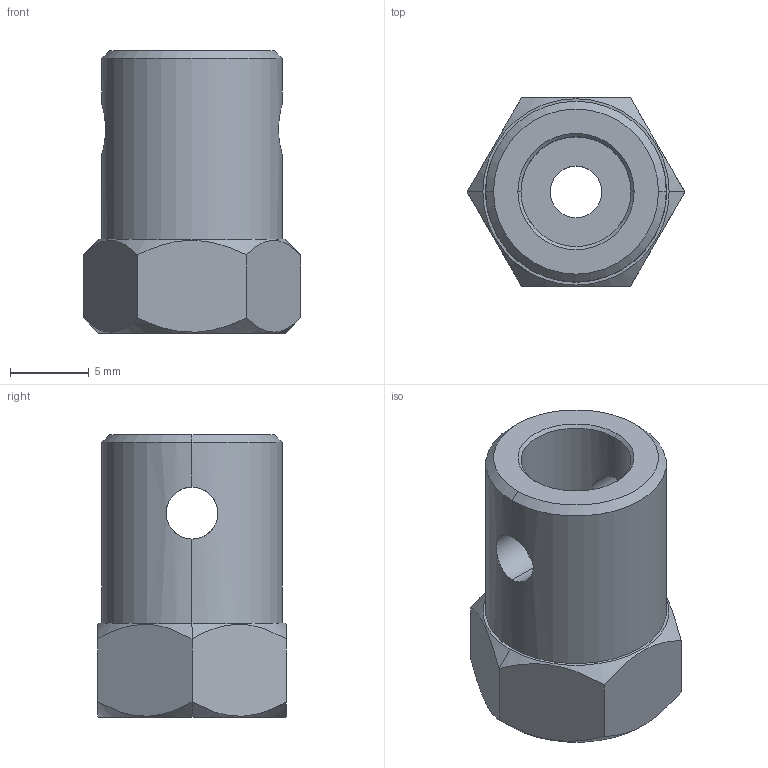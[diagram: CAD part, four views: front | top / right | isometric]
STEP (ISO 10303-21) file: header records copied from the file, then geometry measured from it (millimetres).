
FILE_DESCRIPTION (( 'STEP AP214' ), '1' );
FILE_NAME ('18060-3D.STEP', '2018-12-28T03:10:38', ( 'Windows 蚚誧' ), ( '' ), 'SwSTEP 2.0', 'SolidWorks 2018', '' );
FILE_SCHEMA (( 'AUTOMOTIVE_DESIGN' ));
Length unit declared in the file: millimetre
Products named in the file (1): 18060-3D
Bounding box: 13.86 x 12 x 18 mm (x, y, z)
Volume: 1429.2 mm3; surface area: 1220.8 mm2
Topology: 1 solids, 1 shells, 28 faces, 68 edges, 40 vertices
Faces by surface type: cylinder 10, plane 10, cone 8
Entity records: 1200 total; most frequent: CARTESIAN_POINT 505, ORIENTED_EDGE 136, DIRECTION 126, EDGE_CURVE 68, AXIS2_PLACEMENT_3D 49, VERTEX_POINT 40, EDGE_LOOP 32, LINE 28
